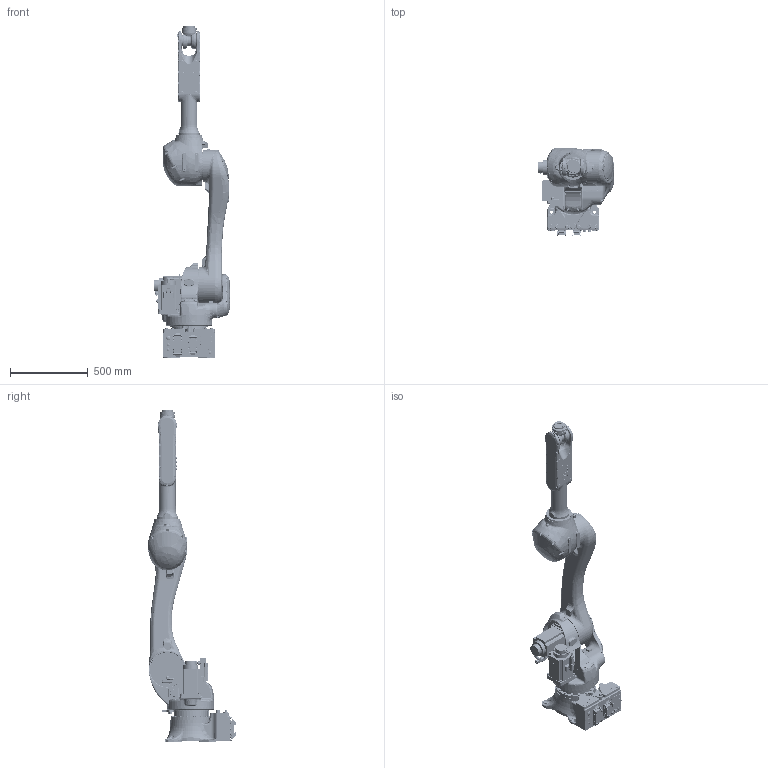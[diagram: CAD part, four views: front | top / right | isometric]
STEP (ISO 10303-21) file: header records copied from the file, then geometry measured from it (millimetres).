
FILE_DESCRIPTION(('CATIA V5 STEP Exchange','CAx-IF Rec.Pracs.--- Composite Materials ---3.4---2017-06-13'),'2;1');
FILE_NAME('D:\モデリング\☆☆☆STEP\RS\RS020N\RS020N-A001_RARAS_200319\軽量化\Part\修正\確認用\RA020N-A001_220210\RA020N-A001.stp','2022-02-10T04:07:56+00:00',('none'),('none'),'CATIA Version 5-6 Release 2020 SP4 HF11','CATIA V5 STEP AP203 v2','none');
FILE_SCHEMA(('CONFIG_CONTROL_DESIGN'));
Length unit declared in the file: millimetre
Products named in the file (1): RA020N-A001
Assembly tree (7 placements, depth 2):
  RA020N-A001
    #57
    #60558
    #135838
    #175086
    #206025
    #259155
    #274295
Bounding box: 484.5 x 567.25 x 2135 mm (x, y, z)
Volume: 84506063 mm3; surface area: 3125496.5 mm2
Topology: 10 solids, 18 shells, 6346 faces, 15638 edges, 9577 vertices
Faces by surface type: cylinder 2491, plane 1885, bspline 1085, torus 371, cone 347, sphere 145, extrusion 13, revolution 9
Entity records: 278738 total; most frequent: CARTESIAN_POINT 146903, ORIENTED_EDGE 30560, DIRECTION 19712, EDGE_CURVE 15280, AXIS2_PLACEMENT_3D 9714, VERTEX_POINT 9577, EDGE_LOOP 7033, ADVANCED_FACE 6346
